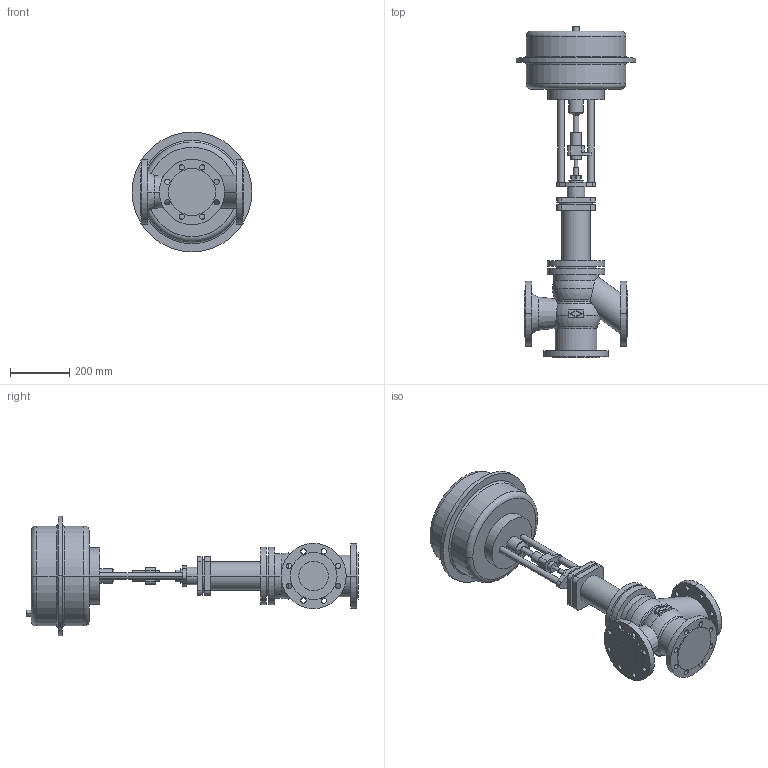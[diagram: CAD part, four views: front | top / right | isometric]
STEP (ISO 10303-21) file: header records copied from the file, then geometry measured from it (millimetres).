
FILE_DESCRIPTION(('OneSpaceDesigner STEP Export'),'2;1');
FILE_NAME('c000000716.stp','2006-09-21T 8:34:07',(''),(''),'OneSpace Designer STEP processor for AP214 (Solid Model)','OneSpace Designer 13.20A 18-Aug-2005 (C) CoCreate Software GmbH','');
FILE_SCHEMA(('AUTOMOTIVE_DESIGN { 1 0 10303 214 1 1 1 1 }'));
Length unit declared in the file: millimetre
Products named in the file (2): 1; 2
Bounding box: 405 x 1122.7 x 405 mm (x, y, z)
Volume: 31841588.1 mm3; surface area: 1193970 mm2
Topology: 2 solids, 2 shells, 252 faces, 632 edges, 414 vertices
Faces by surface type: cylinder 134, plane 88, torus 20, cone 6, sphere 4
Entity records: 6891 total; most frequent: CARTESIAN_POINT 1316, ORIENTED_EDGE 1256, DIRECTION 1010, EDGE_CURVE 628, VERTEX_POINT 414, AXIS2_PLACEMENT_3D 370, EDGE_LOOP 334, VECTOR 270
